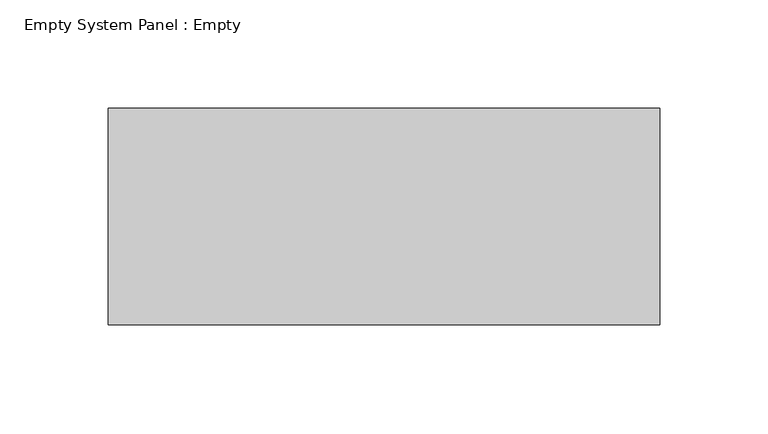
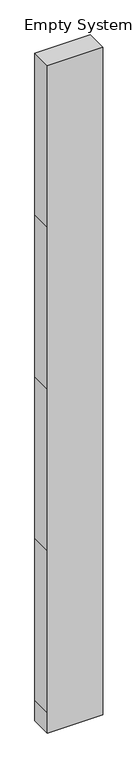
"""IFC4 building model written with IfcOpenShell, lengths in millimetres: plate geometry, Empty System Panel : Empty."""

from ifc_helpers import new_model, si_unit, frame, origin, place, context, project, spatial, polyline, outline, extrude, source, transform, mapped, element, save


def empty_system_panel_empty_63036f14(model_context):
    return source(origin(), model_context, "Body", "SweptSolid", [
        extrude(outline(polyline([(0.0, -127.5), (0.0, 127.5), (100.0, 127.5), (887.95, 127.5), (1675.9, 127.5), (2463.85, 127.5), (3251.8, 127.5), (3251.8, -127.5), (2463.85, -127.5), (1675.9, -127.5), (887.95, -127.5), (100.0, -127.5), (0.0, -127.5)])), frame((0.0, -50.0, 0.0), z_axis=(0.0, 1.0, 0.0), x_axis=(0.0, 0.0, 1.0)), (0.0, 0.0, 1.0), 100.0),
    ])


if __name__ == "__main__":
    model = new_model("IFC4")
    model_context = context("Model", 3, world=origin())
    ifc_project = project(units=[si_unit("LENGTHUNIT", "METRE", prefix="MILLI")], contexts=[model_context])
    site = spatial("IfcSite", under=ifc_project)
    building = spatial("IfcBuilding", under=site)
    placement = place(None, origin())
    empty_system_panel_empty_shape = empty_system_panel_empty_63036f14(model_context)
    element("IfcPlate", 1, ObjectType="Empty System Panel : Empty", at=placement, inside=building, context=model_context, shape_type="MappedRepresentation", body=[
        mapped(empty_system_panel_empty_shape, transform((0.0, 0.0, 0.0), x_axis=(1.0, 0.0, 0.0), y_axis=(0.0, 1.0, 0.0), z_axis=(0.0, 0.0, 1.0))),
    ])
    save(model, "model.ifc")
